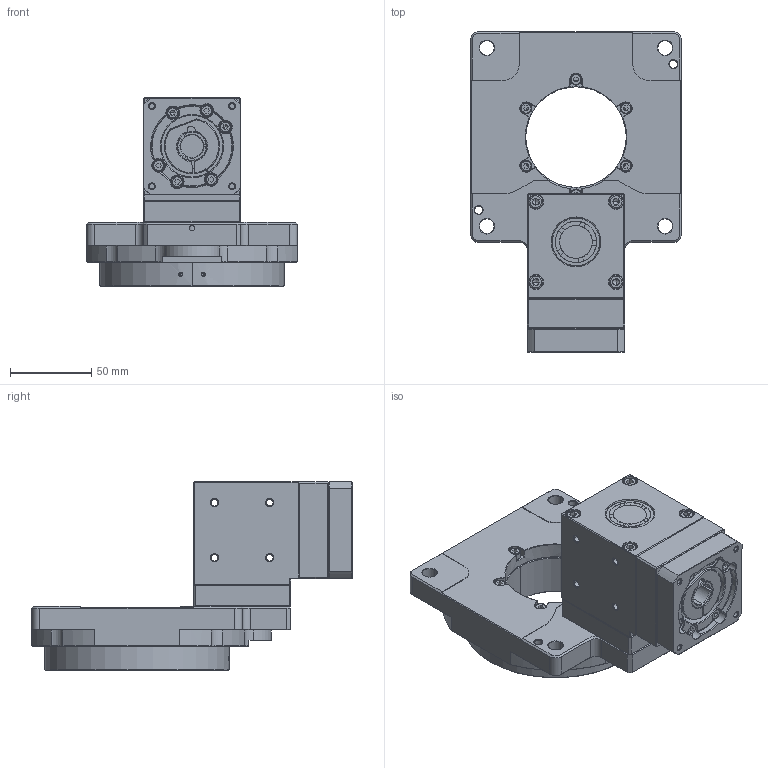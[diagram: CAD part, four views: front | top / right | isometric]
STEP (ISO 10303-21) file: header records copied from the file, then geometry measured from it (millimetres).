
FILE_DESCRIPTION (( 'STEP AP203' ), '1' );
FILE_NAME ('HRG130Z 蚾饜极.STEP', '2022-08-03T05:53:31', ( 'Windows User' ), ( 'P R C' ), 'SwSTEP 2.0', 'SolidWorks 2020', '' );
FILE_SCHEMA (( 'CONFIG_CONTROL_DESIGN' ));
Length unit declared in the file: millimetre
Products named in the file (1): HRG130Z 蚾饜极
Bounding box: 130 x 197.8 x 116.5 mm (x, y, z)
Surface area: 117852.3 mm2 (no closed solid volume)
Topology: 0 solids, 33 shells, 782 faces, 2248 edges, 1449 vertices
Faces by surface type: plane 325, cone 197, cylinder 194, torus 53, bspline 13
Entity records: 26211 total; most frequent: CARTESIAN_POINT 5685, DIRECTION 4447, ORIENTED_EDGE 3889, EDGE_CURVE 2236, AXIS2_PLACEMENT_3D 1659, VERTEX_POINT 1449, LINE 1129, VECTOR 1129
